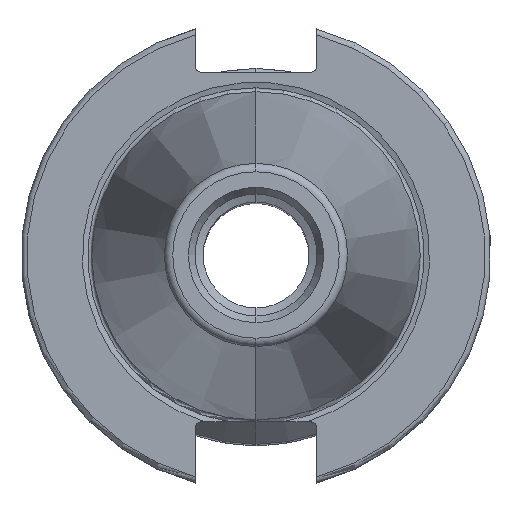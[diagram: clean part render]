
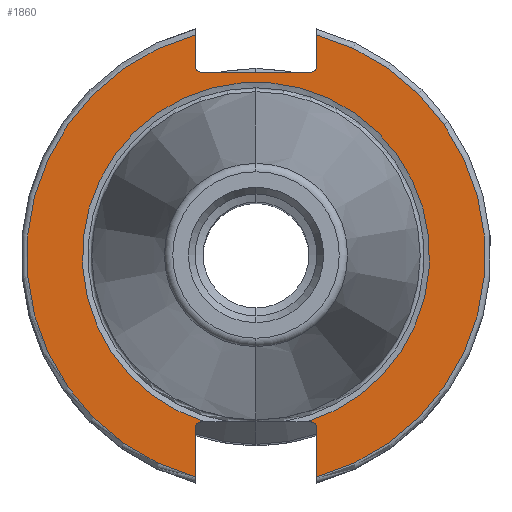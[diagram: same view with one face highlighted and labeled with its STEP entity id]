
A CAD part, top view. The second image highlights one B-rep face of the part: STEP entity #1860.
In plain terms, the highlighted planar face has unit normal (0, 0, 1).
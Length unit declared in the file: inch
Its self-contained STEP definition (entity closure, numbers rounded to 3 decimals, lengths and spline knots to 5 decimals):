
#64 = DIRECTION ( 'NONE',  ( 0., -1., 0. ) ) ;
#87 = ORIENTED_EDGE ( 'NONE', *, *, #2117, .F. ) ;
#148 = VERTEX_POINT ( 'NONE', #3186 ) ;
#238 = DIRECTION ( 'NONE',  ( 1., 0., 0. ) ) ;
#258 = CARTESIAN_POINT ( 'NONE',  ( 0.3225, 1.0075, -0.125 ) ) ;
#288 = AXIS2_PLACEMENT_3D ( 'NONE', #1186, #365, #4146 ) ;
#364 = CARTESIAN_POINT ( 'NONE',  ( -0.3225, 0., -0.125 ) ) ;
#365 = DIRECTION ( 'NONE',  ( 0., 0., -1. ) ) ;
#392 = CARTESIAN_POINT ( 'NONE',  ( 0., 0., -0.125 ) ) ;
#424 = LINE ( 'NONE', #447, #3410 ) ;
#447 = CARTESIAN_POINT ( 'NONE',  ( 0.3225, 0., -0.125 ) ) ;
#457 = DIRECTION ( 'NONE',  ( 0., -1., 0. ) ) ;
#468 = CIRCLE ( 'NONE', #288, 0.03 ) ;
#510 = VERTEX_POINT ( 'NONE', #3022 ) ;
#603 = DIRECTION ( 'NONE',  ( 0., -1., 0. ) ) ;
#694 = CARTESIAN_POINT ( 'NONE',  ( 1.22, -0.8825, -0.125 ) ) ;
#727 = LINE ( 'NONE', #4921, #3717 ) ;
#767 = CARTESIAN_POINT ( 'NONE',  ( 0.27356, -0.8825, -0.125 ) ) ;
#837 = EDGE_CURVE ( 'NONE', #148, #1438, #5152, .T. ) ;
#853 = LINE ( 'NONE', #364, #1949 ) ;
#869 = EDGE_CURVE ( 'NONE', #510, #1683, #1432, .T. ) ;
#887 = VERTEX_POINT ( 'NONE', #1843 ) ;
#936 = VERTEX_POINT ( 'NONE', #4765 ) ;
#1026 = CARTESIAN_POINT ( 'NONE',  ( -0.2925, -0.8825, -0.125 ) ) ;
#1186 = CARTESIAN_POINT ( 'NONE',  ( 0.2925, -0.9125, -0.125 ) ) ;
#1222 = CARTESIAN_POINT ( 'NONE',  ( 0.3225, 0., -0.125 ) ) ;
#1344 = DIRECTION ( 'NONE',  ( 0., 1., 0. ) ) ;
#1397 = ORIENTED_EDGE ( 'NONE', *, *, #4462, .T. ) ;
#1432 = CIRCLE ( 'NONE', #2834, 0.03 ) ;
#1438 = VERTEX_POINT ( 'NONE', #1026 ) ;
#1514 = CARTESIAN_POINT ( 'NONE',  ( 0.2925, 0.9775, -0.125 ) ) ;
#1546 = ORIENTED_EDGE ( 'NONE', *, *, #2097, .T. ) ;
#1606 = CIRCLE ( 'NONE', #3948, 0.03 ) ;
#1683 = VERTEX_POINT ( 'NONE', #4392 ) ;
#1693 = ORIENTED_EDGE ( 'NONE', *, *, #5277, .T. ) ;
#1719 = DIRECTION ( 'NONE',  ( 0., 1., 0. ) ) ;
#1749 = EDGE_CURVE ( 'NONE', #1438, #4367, #3961, .T. ) ;
#1814 = ORIENTED_EDGE ( 'NONE', *, *, #2025, .F. ) ;
#1829 = CARTESIAN_POINT ( 'NONE',  ( 1.22, 0.9775, -0.125 ) ) ;
#1838 = DIRECTION ( 'NONE',  ( 0., 0., -1. ) ) ;
#1843 = CARTESIAN_POINT ( 'NONE',  ( 0.3225, -0.9125, -0.125 ) ) ;
#1860 = ADVANCED_FACE ( 'NONE', ( #3101 ), #4355, .T. ) ;
#1949 = VECTOR ( 'NONE', #64, 39.37008 ) ;
#1974 = CARTESIAN_POINT ( 'NONE',  ( -0.27356, -0.8825, -0.125 ) ) ;
#2025 = EDGE_CURVE ( 'NONE', #5154, #3914, #424, .T. ) ;
#2035 = CIRCLE ( 'NONE', #2116, 1.22 ) ;
#2055 = VECTOR ( 'NONE', #4561, 39.37008 ) ;
#2097 = EDGE_CURVE ( 'NONE', #4367, #2285, #2377, .T. ) ;
#2116 = AXIS2_PLACEMENT_3D ( 'NONE', #2674, #2157, #1344 ) ;
#2117 = EDGE_CURVE ( 'NONE', #3914, #4864, #5323, .T. ) ;
#2126 = AXIS2_PLACEMENT_3D ( 'NONE', #3506, #4273, #603 ) ;
#2157 = DIRECTION ( 'NONE',  ( 0., 0., -1. ) ) ;
#2285 = VERTEX_POINT ( 'NONE', #767 ) ;
#2307 = DIRECTION ( 'NONE',  ( 0., 1., 0. ) ) ;
#2325 = VECTOR ( 'NONE', #2307, 39.37008 ) ;
#2377 = CIRCLE ( 'NONE', #5132, 0.92393 ) ;
#2387 = VERTEX_POINT ( 'NONE', #3265 ) ;
#2479 = VECTOR ( 'NONE', #238, 39.37008 ) ;
#2657 = EDGE_CURVE ( 'NONE', #3457, #936, #2035, .T. ) ;
#2674 = CARTESIAN_POINT ( 'NONE',  ( 0., 0., -0.125 ) ) ;
#2743 = CARTESIAN_POINT ( 'NONE',  ( -0.3225, 0., -0.125 ) ) ;
#2799 = DIRECTION ( 'NONE',  ( 1., 0., 0. ) ) ;
#2801 = ORIENTED_EDGE ( 'NONE', *, *, #837, .T. ) ;
#2834 = AXIS2_PLACEMENT_3D ( 'NONE', #3861, #4736, #4660 ) ;
#2942 = EDGE_CURVE ( 'NONE', #510, #3904, #3905, .T. ) ;
#2947 = DIRECTION ( 'NONE',  ( 0., 0., -1. ) ) ;
#3022 = CARTESIAN_POINT ( 'NONE',  ( -0.2925, 0.9775, -0.125 ) ) ;
#3053 = ORIENTED_EDGE ( 'NONE', *, *, #2657, .F. ) ;
#3101 = FACE_OUTER_BOUND ( 'NONE', #3147, .T. ) ;
#3114 = DIRECTION ( 'NONE',  ( 1., 0., 0. ) ) ;
#3147 = EDGE_LOOP ( 'NONE', ( #3748, #3053, #4690, #2801, #5143, #1546, #4674, #1693, #4754, #87, #1814, #1397, #3689, #4966 ) ) ;
#3177 = CARTESIAN_POINT ( 'NONE',  ( 0.3225, -1.1766, -0.125 ) ) ;
#3186 = CARTESIAN_POINT ( 'NONE',  ( -0.3225, -0.9125, -0.125 ) ) ;
#3265 = CARTESIAN_POINT ( 'NONE',  ( 0.2925, -0.8825, -0.125 ) ) ;
#3297 = DIRECTION ( 'NONE',  ( 0., 1., 0. ) ) ;
#3305 = LINE ( 'NONE', #1222, #2055 ) ;
#3378 = DIRECTION ( 'NONE',  ( 0., 1., 0. ) ) ;
#3410 = VECTOR ( 'NONE', #3297, 39.37008 ) ;
#3448 = EDGE_CURVE ( 'NONE', #887, #4864, #3305, .T. ) ;
#3457 = VERTEX_POINT ( 'NONE', #4949 ) ;
#3506 = CARTESIAN_POINT ( 'NONE',  ( -0.2925, -0.9125, -0.125 ) ) ;
#3689 = ORIENTED_EDGE ( 'NONE', *, *, #2942, .F. ) ;
#3698 = EDGE_CURVE ( 'NONE', #3457, #148, #5255, .T. ) ;
#3717 = VECTOR ( 'NONE', #2799, 39.37008 ) ;
#3748 = ORIENTED_EDGE ( 'NONE', *, *, #4677, .F. ) ;
#3808 = CARTESIAN_POINT ( 'NONE',  ( 0., 0., -0.125 ) ) ;
#3861 = CARTESIAN_POINT ( 'NONE',  ( -0.2925, 1.0075, -0.125 ) ) ;
#3886 = CARTESIAN_POINT ( 'NONE',  ( 0.2925, 1.0075, -0.125 ) ) ;
#3904 = VERTEX_POINT ( 'NONE', #1514 ) ;
#3905 = LINE ( 'NONE', #1829, #4393 ) ;
#3914 = VERTEX_POINT ( 'NONE', #4777 ) ;
#3948 = AXIS2_PLACEMENT_3D ( 'NONE', #3886, #1838, #457 ) ;
#3949 = DIRECTION ( 'NONE',  ( 0., 0., 1. ) ) ;
#3961 = LINE ( 'NONE', #694, #2479 ) ;
#4066 = EDGE_CURVE ( 'NONE', #2285, #2387, #727, .T. ) ;
#4146 = DIRECTION ( 'NONE',  ( 0., -1., 0. ) ) ;
#4271 = CARTESIAN_POINT ( 'NONE',  ( 1.22, 0., -0.125 ) ) ;
#4273 = DIRECTION ( 'NONE',  ( 0., 0., -1. ) ) ;
#4355 = PLANE ( 'NONE',  #5063 ) ;
#4367 = VERTEX_POINT ( 'NONE', #1974 ) ;
#4392 = CARTESIAN_POINT ( 'NONE',  ( -0.3225, 1.0075, -0.125 ) ) ;
#4393 = VECTOR ( 'NONE', #3114, 39.37008 ) ;
#4462 = EDGE_CURVE ( 'NONE', #5154, #3904, #1606, .T. ) ;
#4561 = DIRECTION ( 'NONE',  ( 0., -1., 0. ) ) ;
#4653 = DIRECTION ( 'NONE',  ( 0., 0., -1. ) ) ;
#4660 = DIRECTION ( 'NONE',  ( 0., -1., 0. ) ) ;
#4674 = ORIENTED_EDGE ( 'NONE', *, *, #4066, .T. ) ;
#4677 = EDGE_CURVE ( 'NONE', #936, #1683, #853, .T. ) ;
#4690 = ORIENTED_EDGE ( 'NONE', *, *, #3698, .T. ) ;
#4736 = DIRECTION ( 'NONE',  ( 0., 0., -1. ) ) ;
#4754 = ORIENTED_EDGE ( 'NONE', *, *, #3448, .T. ) ;
#4765 = CARTESIAN_POINT ( 'NONE',  ( -0.3225, 1.1766, -0.125 ) ) ;
#4777 = CARTESIAN_POINT ( 'NONE',  ( 0.3225, 1.1766, -0.125 ) ) ;
#4786 = DIRECTION ( 'NONE',  ( 0., -1., 0. ) ) ;
#4864 = VERTEX_POINT ( 'NONE', #3177 ) ;
#4921 = CARTESIAN_POINT ( 'NONE',  ( 1.22, -0.8825, -0.125 ) ) ;
#4949 = CARTESIAN_POINT ( 'NONE',  ( -0.3225, -1.1766, -0.125 ) ) ;
#4966 = ORIENTED_EDGE ( 'NONE', *, *, #869, .T. ) ;
#4976 = AXIS2_PLACEMENT_3D ( 'NONE', #392, #2947, #3378 ) ;
#5063 = AXIS2_PLACEMENT_3D ( 'NONE', #4271, #3949, #4786 ) ;
#5132 = AXIS2_PLACEMENT_3D ( 'NONE', #3808, #4653, #1719 ) ;
#5143 = ORIENTED_EDGE ( 'NONE', *, *, #1749, .T. ) ;
#5152 = CIRCLE ( 'NONE', #2126, 0.03 ) ;
#5154 = VERTEX_POINT ( 'NONE', #258 ) ;
#5255 = LINE ( 'NONE', #2743, #2325 ) ;
#5277 = EDGE_CURVE ( 'NONE', #2387, #887, #468, .T. ) ;
#5323 = CIRCLE ( 'NONE', #4976, 1.22 ) ;
